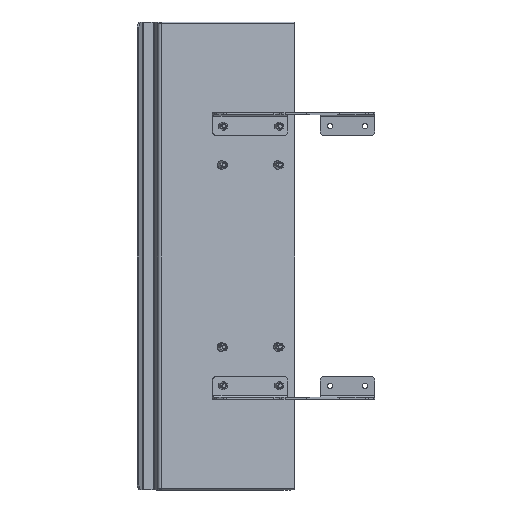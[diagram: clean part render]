
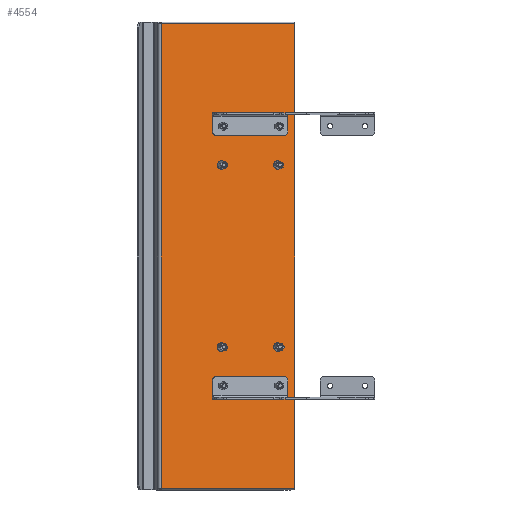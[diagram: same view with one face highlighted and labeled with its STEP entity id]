
A CAD part, front view. The second image highlights one B-rep face of the part: STEP entity #4554.
In plain terms, the highlighted planar face has unit normal (0.259, -0.966, 0).
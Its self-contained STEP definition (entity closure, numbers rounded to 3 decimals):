
#416 = CARTESIAN_POINT ( 'NONE',  ( -193.137, -15.902, 80.108 ) ) ;
#609 = ORIENTED_EDGE ( 'NONE', *, *, #14268, .T. ) ;
#849 = ORIENTED_EDGE ( 'NONE', *, *, #24121, .T. ) ;
#1085 = VERTEX_POINT ( 'NONE', #3604 ) ;
#1164 = CARTESIAN_POINT ( 'NONE',  ( -115.38, 4.933, 217.408 ) ) ;
#1311 = DIRECTION ( 'NONE',  ( 0., 0., 1. ) ) ;
#1462 = VERTEX_POINT ( 'NONE', #20774 ) ;
#1526 = EDGE_LOOP ( 'NONE', ( #849, #19108, #2174, #2785 ) ) ;
#1544 = EDGE_LOOP ( 'NONE', ( #16913 ) ) ;
#1799 = DIRECTION ( 'NONE',  ( -0.259, 0.966, 0. ) ) ;
#1999 = ORIENTED_EDGE ( 'NONE', *, *, #4537, .T. ) ;
#2174 = ORIENTED_EDGE ( 'NONE', *, *, #27277, .T. ) ;
#2255 = CIRCLE ( 'NONE', #19436, 5.3 ) ;
#2485 = CARTESIAN_POINT ( 'NONE',  ( -40.494, 24.998, 266.767 ) ) ;
#2598 = FACE_BOUND ( 'NONE', #11067, .T. ) ;
#2785 = ORIENTED_EDGE ( 'NONE', *, *, #29961, .T. ) ;
#3043 = DIRECTION ( 'NONE',  ( 0., 0., 1. ) ) ;
#3105 = VERTEX_POINT ( 'NONE', #28965 ) ;
#3572 = DIRECTION ( 'NONE',  ( -0.259, 0.966, 0. ) ) ;
#3604 = CARTESIAN_POINT ( 'NONE',  ( -193.137, -15.902, 80.108 ) ) ;
#3855 = LINE ( 'NONE', #25082, #29505 ) ;
#4354 = VERTEX_POINT ( 'NONE', #20753 ) ;
#4485 = CARTESIAN_POINT ( 'NONE',  ( -115.38, 4.933, 552.408 ) ) ;
#4537 = EDGE_CURVE ( 'NONE', #11025, #11025, #18105, .T. ) ;
#4554 = ADVANCED_FACE ( 'NONE', ( #7661, #23667, #25962, #24109, #14294, #2598, #12286, #7374, #16755 ), #28608, .F. ) ;
#5673 = DIRECTION ( 'NONE',  ( -0.119, -0.032, -0.992 ) ) ;
#5813 = CIRCLE ( 'NONE', #28448, 5.3 ) ;
#5878 = DIRECTION ( 'NONE',  ( -0.259, 0.966, 0. ) ) ;
#5879 = CARTESIAN_POINT ( 'NONE',  ( -115.38, 4.933, 497.108 ) ) ;
#6164 = DIRECTION ( 'NONE',  ( -0.966, -0.259, 0. ) ) ;
#6269 = CARTESIAN_POINT ( 'NONE',  ( -42.935, 24.344, 212.108 ) ) ;
#6601 = EDGE_CURVE ( 'NONE', #1462, #8050, #3855, .T. ) ;
#6621 = ORIENTED_EDGE ( 'NONE', *, *, #13188, .T. ) ;
#7367 = DIRECTION ( 'NONE',  ( 0.966, 0.259, 0. ) ) ;
#7374 = FACE_OUTER_BOUND ( 'NONE', #1526, .T. ) ;
#7661 = FACE_BOUND ( 'NONE', #22252, .T. ) ;
#7687 = EDGE_LOOP ( 'NONE', ( #6621 ) ) ;
#8006 = DIRECTION ( 'NONE',  ( -0.259, 0.966, 0. ) ) ;
#8050 = VERTEX_POINT ( 'NONE', #30038 ) ;
#8700 = CIRCLE ( 'NONE', #11149, 5.3 ) ;
#9230 = EDGE_LOOP ( 'NONE', ( #29110 ) ) ;
#9891 = CARTESIAN_POINT ( 'NONE',  ( -42.935, 24.344, 217.408 ) ) ;
#10932 = VERTEX_POINT ( 'NONE', #4485 ) ;
#11025 = VERTEX_POINT ( 'NONE', #18409 ) ;
#11067 = EDGE_LOOP ( 'NONE', ( #17254 ) ) ;
#11149 = AXIS2_PLACEMENT_3D ( 'NONE', #23983, #17066, #1311 ) ;
#11580 = LINE ( 'NONE', #20661, #19184 ) ;
#11680 = AXIS2_PLACEMENT_3D ( 'NONE', #16968, #5878, #17402 ) ;
#12286 = FACE_BOUND ( 'NONE', #14481, .T. ) ;
#12337 = ORIENTED_EDGE ( 'NONE', *, *, #16227, .T. ) ;
#12423 = DIRECTION ( 'NONE',  ( -0.259, 0.966, 0. ) ) ;
#12711 = VERTEX_POINT ( 'NONE', #1164 ) ;
#12949 = DIRECTION ( 'NONE',  ( -0.925, -0.248, 0.289 ) ) ;
#13072 = DIRECTION ( 'NONE',  ( 0., 0., -1. ) ) ;
#13188 = EDGE_CURVE ( 'NONE', #3105, #3105, #26108, .T. ) ;
#13619 = CIRCLE ( 'NONE', #21946, 5.3 ) ;
#14140 = EDGE_CURVE ( 'NONE', #10932, #10932, #8700, .T. ) ;
#14268 = EDGE_CURVE ( 'NONE', #22912, #22912, #13619, .T. ) ;
#14294 = FACE_BOUND ( 'NONE', #26277, .T. ) ;
#14327 = VERTEX_POINT ( 'NONE', #2485 ) ;
#14481 = EDGE_LOOP ( 'NONE', ( #12337 ) ) ;
#14572 = DIRECTION ( 'NONE',  ( -0.259, 0.966, 0. ) ) ;
#15048 = CARTESIAN_POINT ( 'NONE',  ( -42.935, 24.344, 497.108 ) ) ;
#15156 = AXIS2_PLACEMENT_3D ( 'NONE', #26253, #14572, #3043 ) ;
#15515 = DIRECTION ( 'NONE',  ( 0., 0., 1. ) ) ;
#15673 = AXIS2_PLACEMENT_3D ( 'NONE', #15048, #8006, #5673 ) ;
#16227 = EDGE_CURVE ( 'NONE', #14327, #14327, #5813, .T. ) ;
#16755 = FACE_BOUND ( 'NONE', #1544, .T. ) ;
#16895 = CARTESIAN_POINT ( 'NONE',  ( -115.38, 4.933, 262.108 ) ) ;
#16913 = ORIENTED_EDGE ( 'NONE', *, *, #14140, .T. ) ;
#16968 = CARTESIAN_POINT ( 'NONE',  ( -115.38, 4.933, 212.108 ) ) ;
#17066 = DIRECTION ( 'NONE',  ( -0.259, 0.966, 0. ) ) ;
#17165 = CIRCLE ( 'NONE', #15673, 5.3 ) ;
#17254 = ORIENTED_EDGE ( 'NONE', *, *, #26297, .T. ) ;
#17402 = DIRECTION ( 'NONE',  ( 0., 0., 1. ) ) ;
#18105 = CIRCLE ( 'NONE', #28960, 5.3 ) ;
#18409 = CARTESIAN_POINT ( 'NONE',  ( -120.427, 3.58, 261.224 ) ) ;
#19108 = ORIENTED_EDGE ( 'NONE', *, *, #6601, .F. ) ;
#19184 = VECTOR ( 'NONE', #30065, 1000. ) ;
#19436 = AXIS2_PLACEMENT_3D ( 'NONE', #6269, #1799, #15515 ) ;
#19699 = AXIS2_PLACEMENT_3D ( 'NONE', #5879, #3572, #12949 ) ;
#20481 = CIRCLE ( 'NONE', #11680, 5.3 ) ;
#20661 = CARTESIAN_POINT ( 'NONE',  ( -193.137, -15.902, 681.608 ) ) ;
#20753 = CARTESIAN_POINT ( 'NONE',  ( -193.137, -15.902, 679.108 ) ) ;
#20774 = CARTESIAN_POINT ( 'NONE',  ( -20.719, 30.297, 679.108 ) ) ;
#20857 = CARTESIAN_POINT ( 'NONE',  ( -42.935, 24.344, 547.108 ) ) ;
#21218 = CARTESIAN_POINT ( 'NONE',  ( -42.935, 24.344, 262.108 ) ) ;
#21435 = VECTOR ( 'NONE', #7367, 1000. ) ;
#21494 = VERTEX_POINT ( 'NONE', #25961 ) ;
#21806 = VECTOR ( 'NONE', #6164, 1000. ) ;
#21946 = AXIS2_PLACEMENT_3D ( 'NONE', #20857, #25303, #28123 ) ;
#22252 = EDGE_LOOP ( 'NONE', ( #1999 ) ) ;
#22460 = CARTESIAN_POINT ( 'NONE',  ( -20.719, 30.297, 679.108 ) ) ;
#22912 = VERTEX_POINT ( 'NONE', #27383 ) ;
#23217 = DIRECTION ( 'NONE',  ( 0.461, 0.123, 0.879 ) ) ;
#23497 = LINE ( 'NONE', #416, #21435 ) ;
#23667 = FACE_BOUND ( 'NONE', #25176, .T. ) ;
#23983 = CARTESIAN_POINT ( 'NONE',  ( -115.38, 4.933, 547.108 ) ) ;
#24062 = EDGE_CURVE ( 'NONE', #24422, #24422, #2255, .T. ) ;
#24109 = FACE_BOUND ( 'NONE', #7687, .T. ) ;
#24121 = EDGE_CURVE ( 'NONE', #1085, #8050, #23497, .T. ) ;
#24422 = VERTEX_POINT ( 'NONE', #9891 ) ;
#25082 = CARTESIAN_POINT ( 'NONE',  ( -20.719, 30.297, 77.608 ) ) ;
#25176 = EDGE_LOOP ( 'NONE', ( #29607 ) ) ;
#25303 = DIRECTION ( 'NONE',  ( -0.259, 0.966, 0. ) ) ;
#25961 = CARTESIAN_POINT ( 'NONE',  ( -43.568, 24.175, 491.849 ) ) ;
#25962 = FACE_BOUND ( 'NONE', #9230, .T. ) ;
#26108 = CIRCLE ( 'NONE', #19699, 5.3 ) ;
#26253 = CARTESIAN_POINT ( 'NONE',  ( -107.652, 7.003, 379.608 ) ) ;
#26277 = EDGE_LOOP ( 'NONE', ( #609 ) ) ;
#26297 = EDGE_CURVE ( 'NONE', #21494, #21494, #17165, .T. ) ;
#27277 = EDGE_CURVE ( 'NONE', #1462, #4354, #27723, .T. ) ;
#27383 = CARTESIAN_POINT ( 'NONE',  ( -42.935, 24.344, 552.408 ) ) ;
#27723 = LINE ( 'NONE', #22460, #21806 ) ;
#27983 = EDGE_CURVE ( 'NONE', #12711, #12711, #20481, .T. ) ;
#28123 = DIRECTION ( 'NONE',  ( 0., 0., 1. ) ) ;
#28446 = DIRECTION ( 'NONE',  ( -0.952, -0.255, -0.167 ) ) ;
#28448 = AXIS2_PLACEMENT_3D ( 'NONE', #21218, #30001, #23217 ) ;
#28608 = PLANE ( 'NONE',  #15156 ) ;
#28960 = AXIS2_PLACEMENT_3D ( 'NONE', #16895, #12423, #28446 ) ;
#28965 = CARTESIAN_POINT ( 'NONE',  ( -120.28, 3.62, 498.641 ) ) ;
#29110 = ORIENTED_EDGE ( 'NONE', *, *, #27983, .T. ) ;
#29505 = VECTOR ( 'NONE', #13072, 1000. ) ;
#29607 = ORIENTED_EDGE ( 'NONE', *, *, #24062, .T. ) ;
#29961 = EDGE_CURVE ( 'NONE', #4354, #1085, #11580, .T. ) ;
#30001 = DIRECTION ( 'NONE',  ( -0.259, 0.966, 0. ) ) ;
#30038 = CARTESIAN_POINT ( 'NONE',  ( -20.719, 30.297, 80.108 ) ) ;
#30065 = DIRECTION ( 'NONE',  ( 0., 0., -1. ) ) ;
